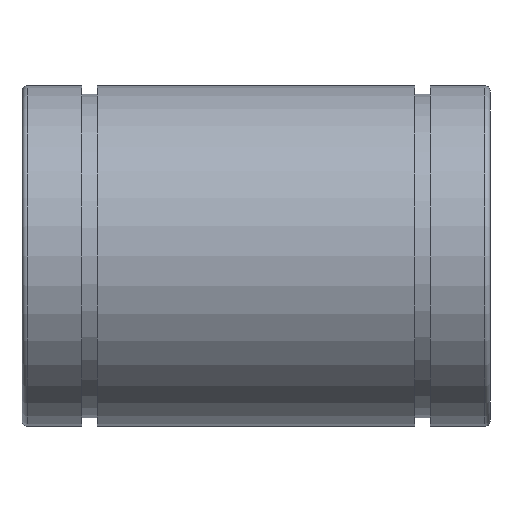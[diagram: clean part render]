
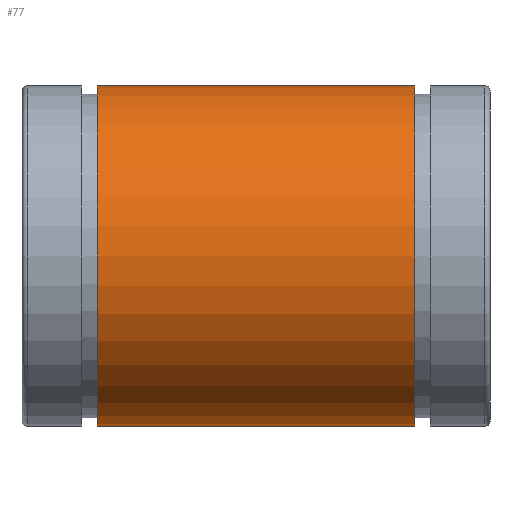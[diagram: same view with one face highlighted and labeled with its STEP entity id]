
A CAD part, front view. The second image highlights one B-rep face of the part: STEP entity #77.
In plain terms, the highlighted cylindrical face has radius 20 mm (diameter 40 mm), a full revolution.
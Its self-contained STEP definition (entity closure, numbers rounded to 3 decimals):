
#77=ADVANCED_FACE('',(#96,#97),#98,.T.);
#96=FACE_OUTER_BOUND('',#138,.T.);
#97=FACE_OUTER_BOUND('',#139,.T.);
#98=CYLINDRICAL_SURFACE('',#140,20.0);
#138=EDGE_LOOP('',(#184));
#139=EDGE_LOOP('',(#185));
#140=AXIS2_PLACEMENT_3D('',#186,#187,#188);
#184=ORIENTED_EDGE('',*,*,#247,.F.);
#185=ORIENTED_EDGE('',*,*,#248,.F.);
#186=CARTESIAN_POINT('',(0.,0.0,0.0));
#187=DIRECTION('',(1.0,-0.0,-0.0));
#188=DIRECTION('',(0.0,1.0,0.0));
#247=EDGE_CURVE('',#264,#264,#265,.T.);
#248=EDGE_CURVE('',#266,#266,#267,.T.);
#264=VERTEX_POINT('',#292);
#265=CIRCLE('',#293,20.0);
#266=VERTEX_POINT('',#294);
#267=CIRCLE('',#295,20.0);
#292=CARTESIAN_POINT('',(18.65,20.0,0.0));
#293=AXIS2_PLACEMENT_3D('',#323,#324,#325);
#294=CARTESIAN_POINT('',(-18.65,-20.0,0.0));
#295=AXIS2_PLACEMENT_3D('',#326,#327,#328);
#323=CARTESIAN_POINT('',(18.65,0.0,0.0));
#324=DIRECTION('',(1.0,0.0,0.0));
#325=DIRECTION('',(0.0,1.0,0.0));
#326=CARTESIAN_POINT('',(-18.65,0.0,0.0));
#327=DIRECTION('',(-1.0,0.0,0.0));
#328=DIRECTION('',(0.0,-1.0,0.0));
